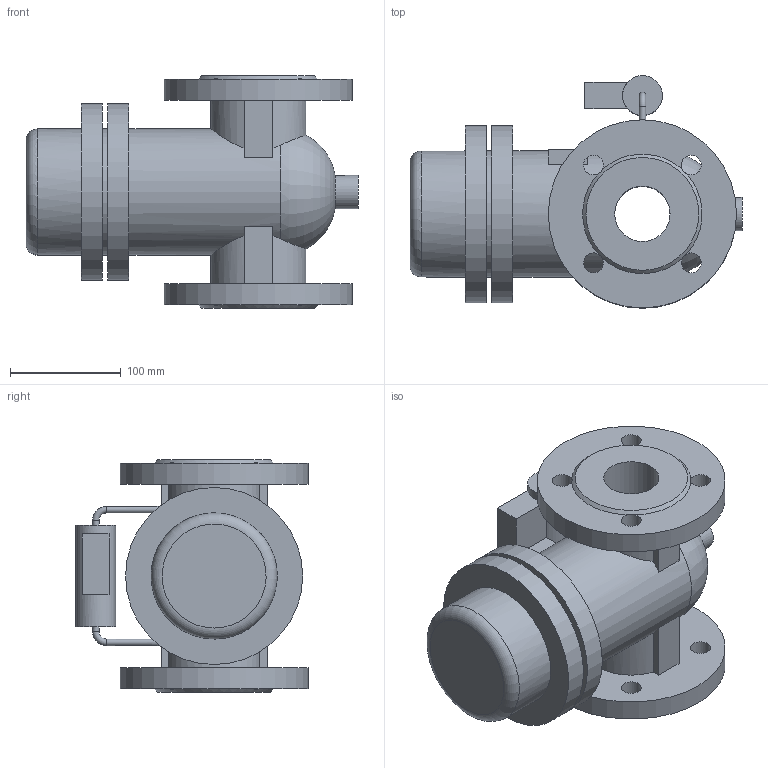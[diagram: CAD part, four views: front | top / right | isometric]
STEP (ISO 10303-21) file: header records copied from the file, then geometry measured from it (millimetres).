
FILE_DESCRIPTION(('STEP AP214'), '1');
FILE_NAME('Ôèëüòð ãàçà ÔÃ16-50-ÄÏÄ', '', ('UNSPECIFIED'), ('UNSPECIFIED'), 'C3D Converter', 'C3D Toolkit', '');
FILE_SCHEMA(('AUTOMOTIVE_DESIGN { 1 0 10303 214 3 1 1}'));
Length unit declared in the file: millimetre
Bounding box: 300 x 210 x 210 mm (x, y, z)
Volume: 4091196.2 mm3; surface area: 322012.3 mm2
Topology: 1 solids, 1 shells, 68 faces, 184 edges, 122 vertices
Faces by surface type: plane 36, cylinder 26, torus 4, cone 2
Full cylindrical faces by diameter (mm): 6 x4, 18 x8, 30 x1, 36 x1, 50 x1, 114 x3, 160 x2, 170 x2
Entity records: 3994 total; most frequent: CARTESIAN_POINT 1734, DIRECTION 350, ORIENTED_EDGE 312, EDGE_CURVE 156, AXIS2_PLACEMENT_3D 149, VERTEX_POINT 122, EDGE_LOOP 120, FACE_BOUND 84
